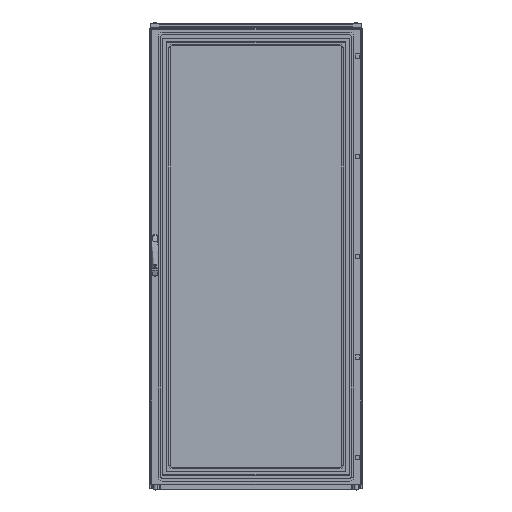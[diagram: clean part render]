
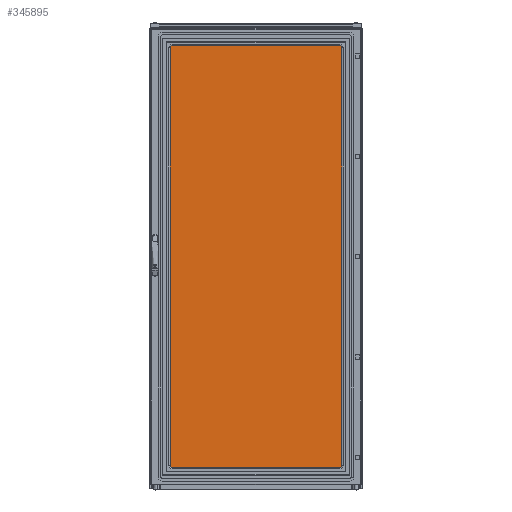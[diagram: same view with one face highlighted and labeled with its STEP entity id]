
A CAD part, top view. The second image highlights one B-rep face of the part: STEP entity #345895.
In plain terms, the highlighted planar face has unit normal (0, 0, 1).
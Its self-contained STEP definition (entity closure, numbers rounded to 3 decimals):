
#5119 = EDGE_CURVE ( 'NONE', #47801, #140502, #289665, .T. ) ;
#14044 = AXIS2_PLACEMENT_3D ( 'NONE', #336367, #255495, #28478 ) ;
#24818 = PLANE ( 'NONE',  #14044 ) ;
#28478 = DIRECTION ( 'NONE',  ( 1., 0., 0. ) ) ;
#37142 = CARTESIAN_POINT ( 'NONE',  ( 0., 0., 4. ) ) ;
#47801 = VERTEX_POINT ( 'NONE', #268143 ) ;
#48679 = VECTOR ( 'NONE', #249018, 1000. ) ;
#74790 = DIRECTION ( 'NONE',  ( 0., -1., 0. ) ) ;
#76648 = LINE ( 'NONE', #243699, #355718 ) ;
#81546 = ORIENTED_EDGE ( 'NONE', *, *, #127612, .T. ) ;
#82096 = CARTESIAN_POINT ( 'NONE',  ( 2031., 0., 4. ) ) ;
#101206 = LINE ( 'NONE', #183786, #209291 ) ;
#108490 = CARTESIAN_POINT ( 'NONE',  ( 2031., -846., 4. ) ) ;
#112483 = EDGE_CURVE ( 'NONE', #210558, #163257, #207102, .T. ) ;
#127612 = EDGE_CURVE ( 'NONE', #163257, #47801, #76648, .T. ) ;
#140502 = VERTEX_POINT ( 'NONE', #108490 ) ;
#152606 = VECTOR ( 'NONE', #291589, 1000. ) ;
#160449 = ORIENTED_EDGE ( 'NONE', *, *, #168045, .T. ) ;
#163257 = VERTEX_POINT ( 'NONE', #37142 ) ;
#168045 = EDGE_CURVE ( 'NONE', #140502, #210558, #101206, .T. ) ;
#183786 = CARTESIAN_POINT ( 'NONE',  ( 2031., 0., 4. ) ) ;
#207102 = LINE ( 'NONE', #237118, #152606 ) ;
#209291 = VECTOR ( 'NONE', #332006, 1000. ) ;
#210558 = VERTEX_POINT ( 'NONE', #82096 ) ;
#237118 = CARTESIAN_POINT ( 'NONE',  ( 0., 0., 4. ) ) ;
#243699 = CARTESIAN_POINT ( 'NONE',  ( 0., 0., 4. ) ) ;
#249018 = DIRECTION ( 'NONE',  ( 1., 0., 0. ) ) ;
#255495 = DIRECTION ( 'NONE',  ( 0., 0., 1. ) ) ;
#268143 = CARTESIAN_POINT ( 'NONE',  ( 0., -846., 4. ) ) ;
#285512 = FACE_OUTER_BOUND ( 'NONE', #356101, .T. ) ;
#289665 = LINE ( 'NONE', #314160, #48679 ) ;
#291589 = DIRECTION ( 'NONE',  ( -1., 0., 0. ) ) ;
#314160 = CARTESIAN_POINT ( 'NONE',  ( 0., -846., 4. ) ) ;
#332006 = DIRECTION ( 'NONE',  ( 0., 1., 0. ) ) ;
#336367 = CARTESIAN_POINT ( 'NONE',  ( 0., -846., 4. ) ) ;
#340584 = ORIENTED_EDGE ( 'NONE', *, *, #5119, .T. ) ;
#345895 = ADVANCED_FACE ( 'NONE', ( #285512 ), #24818, .T. ) ;
#355718 = VECTOR ( 'NONE', #74790, 1000. ) ;
#356101 = EDGE_LOOP ( 'NONE', ( #81546, #340584, #160449, #365307 ) ) ;
#365307 = ORIENTED_EDGE ( 'NONE', *, *, #112483, .T. ) ;
